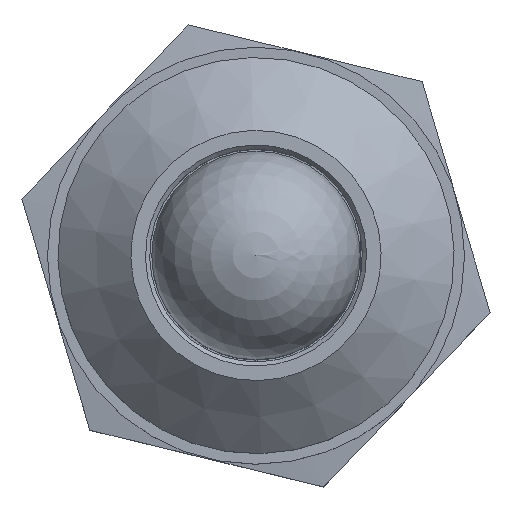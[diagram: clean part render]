
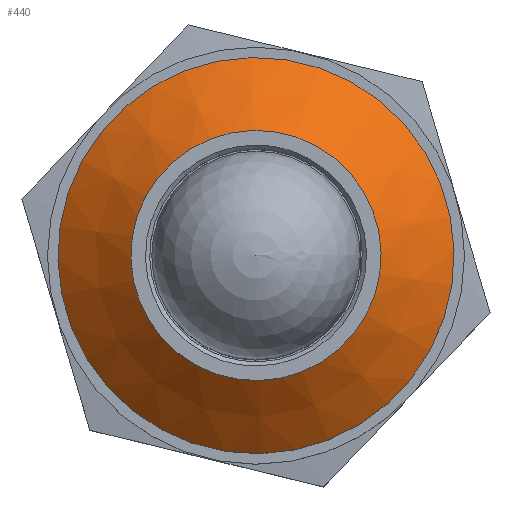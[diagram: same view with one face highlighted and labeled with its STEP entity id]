
A CAD part, top view. The second image highlights one B-rep face of the part: STEP entity #440.
In plain terms, the highlighted conical face has half-angle 49.399 degrees and reference radius 4.75 mm.
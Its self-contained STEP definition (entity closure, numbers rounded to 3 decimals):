
#440 = ADVANCED_FACE( '', ( #839, #840 ), #841, .T. );
#839 = FACE_BOUND( '', #2101, .T. );
#840 = FACE_OUTER_BOUND( '', #2102, .T. );
#841 = CONICAL_SURFACE( '', #2103, 4.75, 0.862 );
#2101 = EDGE_LOOP( '', ( #6661 ) );
#2102 = EDGE_LOOP( '', ( #6662 ) );
#2103 = AXIS2_PLACEMENT_3D( '', #6663, #6664, #6665 );
#6661 = ORIENTED_EDGE( '', *, *, #7118, .T. );
#6662 = ORIENTED_EDGE( '', *, *, #7282, .F. );
#6663 = CARTESIAN_POINT( '', ( 0., 0., 10.65 ) );
#6664 = DIRECTION( '', ( 0., 0., -1. ) );
#6665 = DIRECTION( '', ( -1., 0., 0. ) );
#7118 = EDGE_CURVE( '', #7562, #7562, #7563, .T. );
#7282 = EDGE_CURVE( '', #7801, #7801, #7802, .T. );
#7562 = VERTEX_POINT( '', #8167 );
#7563 = CIRCLE( '', #8168, 3. );
#7801 = VERTEX_POINT( '', #11574 );
#7802 = CIRCLE( '', #11575, 4.75 );
#8167 = CARTESIAN_POINT( '', ( -3., 0., 12.15 ) );
#8168 = AXIS2_PLACEMENT_3D( '', #14071, #14072, #14073 );
#11574 = CARTESIAN_POINT( '', ( 4.75, 0., 10.65 ) );
#11575 = AXIS2_PLACEMENT_3D( '', #14213, #14214, #14215 );
#14071 = CARTESIAN_POINT( '', ( 0., 0., 12.15 ) );
#14072 = DIRECTION( '', ( 0., 0., -1. ) );
#14073 = DIRECTION( '', ( -1., 0., 0. ) );
#14213 = CARTESIAN_POINT( '', ( 0., 0., 10.65 ) );
#14214 = DIRECTION( '', ( 0., 0., -1. ) );
#14215 = DIRECTION( '', ( 1., 0., 0. ) );
